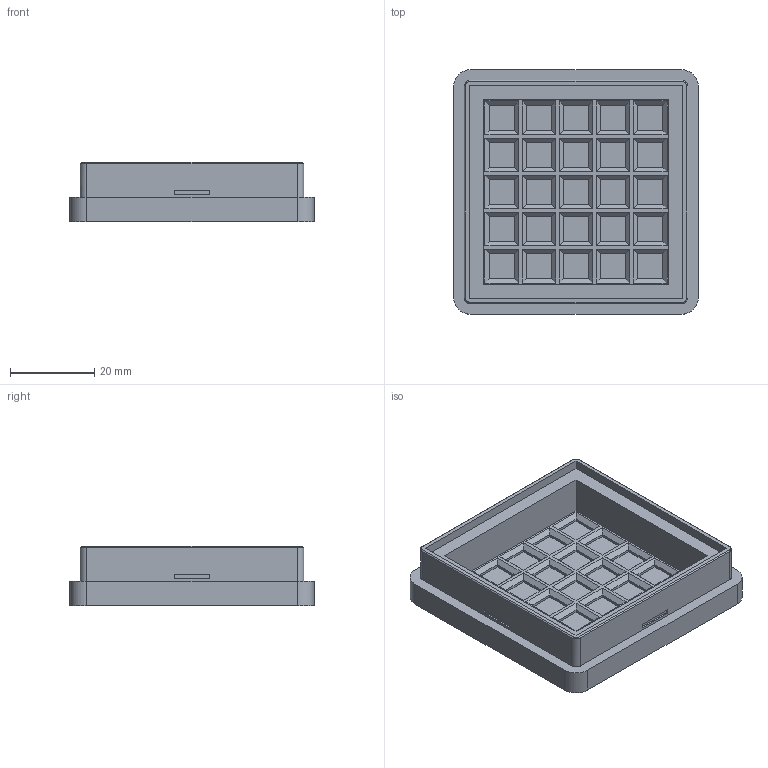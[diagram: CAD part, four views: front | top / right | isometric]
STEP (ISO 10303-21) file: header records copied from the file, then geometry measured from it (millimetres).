
FILE_DESCRIPTION(('FreeCAD Model'),'2;1');
FILE_NAME('Open CASCADE Shape Model','2026-10-03T15:52:11',('Author'),( ''),'Open CASCADE STEP processor 7.8','FreeCAD','Unknown');
FILE_SCHEMA(('AUTOMOTIVE_DESIGN { 1 0 10303 214 1 1 1 1 }'));
Length unit declared in the file: millimetre
Products named in the file (1): DiceBox_HiddenLock_Base
Bounding box: 58 x 58 x 14.2 mm (x, y, z)
Volume: 18159 mm3; surface area: 12448.6 mm2
Topology: 1 solids, 1 shells, 407 faces, 936 edges, 588 vertices
Faces by surface type: bspline 407
Entity records: 10192 total; most frequent: CARTESIAN_POINT 4133, ORIENTED_EDGE 1872, EDGE_CURVE 936, B_SPLINE_CURVE_WITH_KNOTS 916, VERTEX_POINT 588, FACE_BOUND 464, EDGE_LOOP 464, ADVANCED_FACE 407
